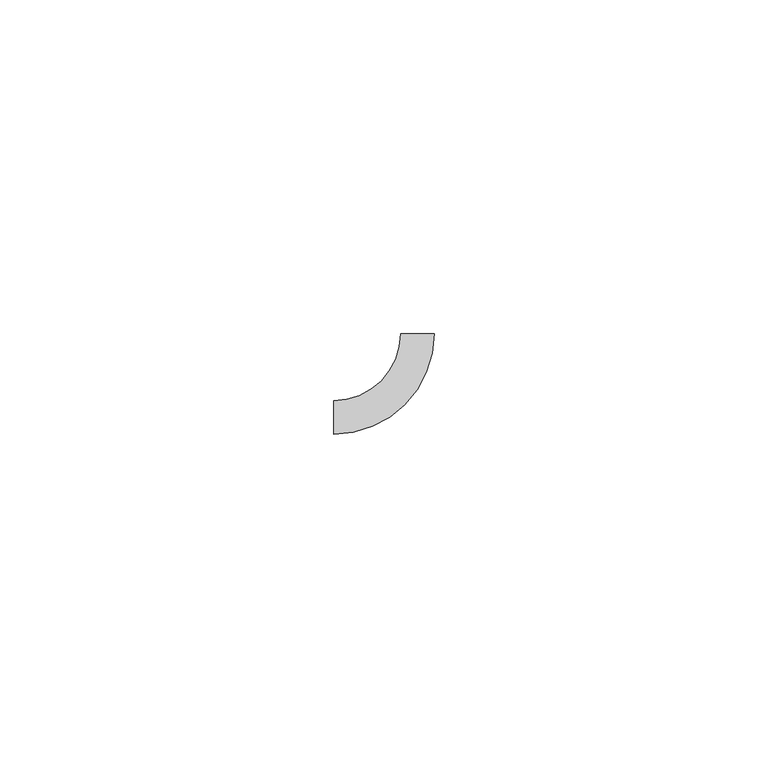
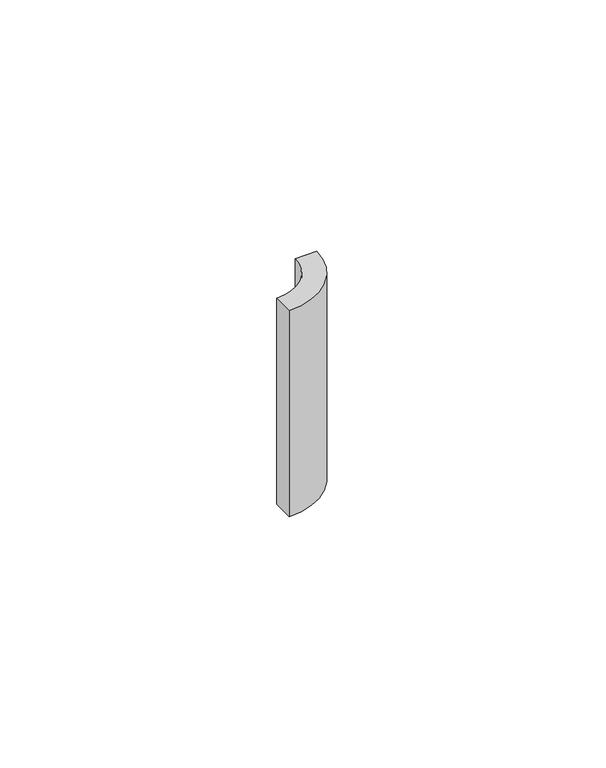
"""IFC4 building model written with IfcOpenShell, lengths in millimetres: duct fitting geometry, КНС_Поворот_Полоса_Неспецифицируемое_DKC : Изгиб полосы."""

from ifc_helpers import new_model, si_unit, point, frame, frame_2d, origin, place, context, project, spatial, polyline, circle_curve, trimmed, segment, composite_curve, outline, extrude, source, transform, mapped, element, save


def duct_fitting_ef8b6955(model_context):
    return source(origin(), model_context, "Body", "SweptSolid", [
        extrude(outline(composite_curve([segment(trimmed(circle_curve(frame_2d((-12.5, 12.5)), 15.0), [point((2.5, 12.5))], [point((-12.5, -2.5))], False, "CARTESIAN"), True, "CONTINUOUS"), segment(polyline([(-12.5, -2.5), (-12.5, 2.5)]), True, "CONTINUOUS"), segment(trimmed(circle_curve(frame_2d((-12.5, 12.5)), 10.0), [point((-12.5, 2.5))], [point((-2.5, 12.5))], True, "CARTESIAN"), True, "CONTINUOUS"), segment(polyline([(-2.5, 12.5), (2.5, 12.5)]), True, "CONTINUOUS")], self_intersect=False)), frame((0.0, 0.0, -25.0), z_axis=(0.0, 0.0, 1.0), x_axis=(1.0, 0.0, 0.0)), (0.0, 0.0, 1.0), 50.0),
    ])


if __name__ == "__main__":
    model = new_model("IFC4")
    model_context = context("Model", 3, world=origin())
    ifc_project = project(units=[si_unit("LENGTHUNIT", "METRE", prefix="MILLI")], contexts=[model_context])
    site = spatial("IfcSite", under=ifc_project)
    building = spatial("IfcBuilding", under=site)
    placement = place(None, origin())
    duct_fitting_shape = duct_fitting_ef8b6955(model_context)
    element("IfcDuctFitting", 1, ObjectType="КНС_Поворот_Полоса_Неспецифицируемое_DKC : Изгиб полосы", at=placement, inside=building, context=model_context, shape_type="MappedRepresentation", body=[
        mapped(duct_fitting_shape, transform((0.0, 0.0, 0.0), x_axis=(1.0, 0.0, 0.0), y_axis=(0.0, 1.0, 0.0), z_axis=(0.0, 0.0, 1.0))),
    ])
    save(model, "model.ifc")
